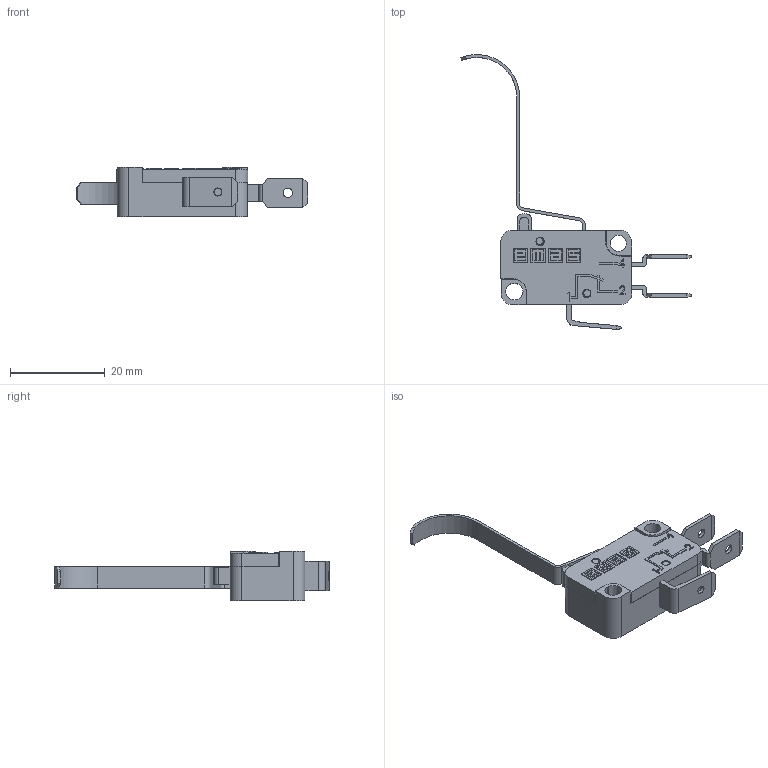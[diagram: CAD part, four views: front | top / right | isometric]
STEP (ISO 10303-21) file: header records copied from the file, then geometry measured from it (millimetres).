
FILE_DESCRIPTION((''),'2; 1');
FILE_NAME('','2026-03-27T16:18:28',(''),(''),'CST STEP Exporter V1.0','Unknown','');
FILE_SCHEMA(('CONFIG_CONTROL_DESIGN'));
Length unit declared in the file: metre
Assembly tree (9 placements, depth 2):
  (unnamed)
    (unnamed)
    (unnamed)
    (unnamed)
    (unnamed)
    (unnamed)
    (unnamed)
    (unnamed)
    (unnamed)
    (unnamed)
Bounding box: 48.9 x 58.12 x 10.4 mm (x, y, z)
Surface area: 7680.2 mm2 (no closed solid volume)
Topology: 0 solids, 9 shells, 284 faces, 1043 edges, 775 vertices
Faces by surface type: plane 239, cylinder 39, extrusion 6
Full cylindrical faces by diameter (mm): 1.5 x2, 1.7 x1, 1.75 x2, 1.95 x2, 3.4 x1
Entity records: 13489 total; most frequent: CARTESIAN_POINT 2271, DIRECTION 1731, ORIENTED_EDGE 1704, EDGE_CURVE 1032, VECTOR 855, LINE 849, VERTEX_POINT 772, AXIS2_PLACEMENT_3D 438
